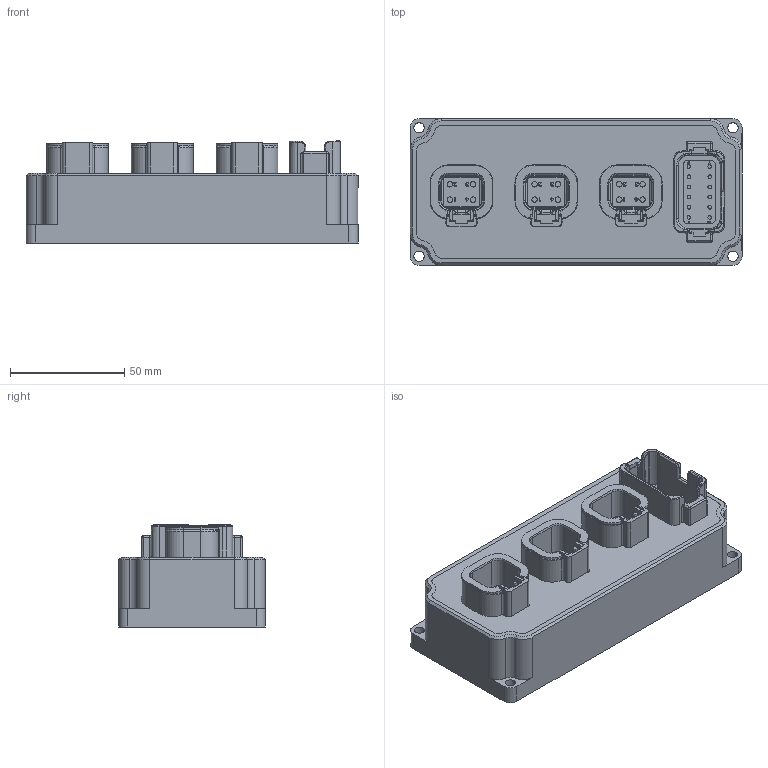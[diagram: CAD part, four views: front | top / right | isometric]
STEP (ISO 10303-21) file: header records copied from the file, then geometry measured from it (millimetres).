
FILE_DESCRIPTION (( 'STEP AP214' ), '1' );
FILE_NAME ('AWCD-003.STEP', '2020-01-27T17:03:38', ( '' ), ( '' ), 'SwSTEP 2.0', 'SolidWorks 2014', '' );
FILE_SCHEMA (( 'AUTOMOTIVE_DESIGN' ));
Length unit declared in the file: millimetre
Products named in the file (37): w_TSW-101-19-T-D; w__TSW-104-19-T-D_body; w__TSW-101-19-T-D_body; w_TSW-104-19-T-D; top board^AWCD-003; Part3^AWCD-003; Part2^AWCD-003; w_DTF15-12PA; Part6^AWCD-003; Part4^AWCD-003; w_capacitor(EEHZA1V151V)_1; w_BOARD CONNECTOR ASSEMBLY_1; w_DEUTSCH DTP15-4P_1; w_BOX; Part5^AWCD-003; AWCD-003; Part1^AWCD-003
Assembly tree (20 placements, depth 3):
  w__TSW-104-19-T-D_body
  w__TSW-104-19-T-D_body
  top board^AWCD-003
  Part3^AWCD-003
  Part2^AWCD-003
Bounding box: 145 x 64 x 44.56 mm (x, y, z)
Volume: 235450.9 mm3; surface area: 131852.4 mm2
Topology: 17 solids, 17 shells, 2906 faces, 7542 edges, 4774 vertices
Faces by surface type: plane 1593, cylinder 948, bspline 231, torus 68, cone 66
Entity records: 70703 total; most frequent: CARTESIAN_POINT 23060, ORIENTED_EDGE 8244, DIRECTION 7833, EDGE_CURVE 4122, VECTOR 2671, LINE 2671, VERTEX_POINT 2624, AXIS2_PLACEMENT_3D 2581
